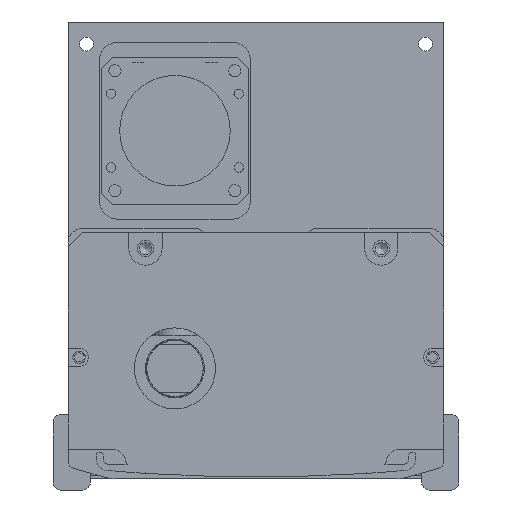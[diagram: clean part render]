
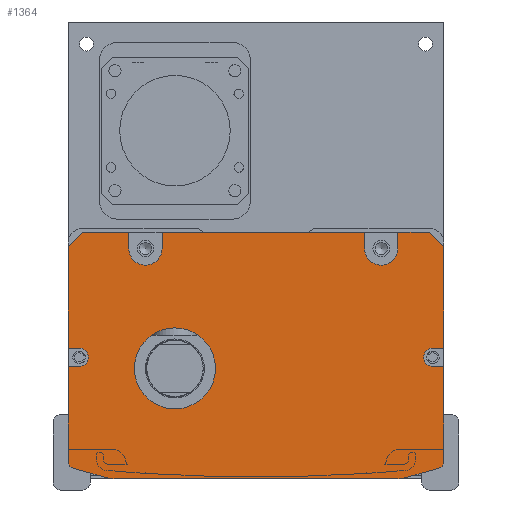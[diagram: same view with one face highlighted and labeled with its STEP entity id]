
A CAD part, front view. The second image highlights one B-rep face of the part: STEP entity #1364.
In plain terms, the highlighted planar face has unit normal (0, -1, 0).
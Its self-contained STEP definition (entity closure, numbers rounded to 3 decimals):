
#1364=ADVANCED_FACE('',(#4036,#4037),#2163,.F.);
#2163=PLANE('',#13208);
#2555=LINE('',#18918,#3317);
#2556=LINE('',#18921,#3318);
#2557=LINE('',#18923,#3319);
#2558=LINE('',#18925,#3320);
#2559=LINE('',#18929,#3321);
#2560=LINE('',#18931,#3322);
#2561=LINE('',#18933,#3323);
#2562=LINE('',#18937,#3324);
#2563=LINE('',#18939,#3325);
#2564=LINE('',#18941,#3326);
#2565=LINE('',#18943,#3327);
#2566=LINE('',#18945,#3328);
#2567=LINE('',#18949,#3329);
#2568=LINE('',#18951,#3330);
#2569=LINE('',#18955,#3331);
#2570=LINE('',#18959,#3332);
#2571=LINE('',#18963,#3333);
#2572=LINE('',#18967,#3334);
#2573=LINE('',#18969,#3335);
#2574=LINE('',#18973,#3336);
#3317=VECTOR('',#14979,1.);
#3318=VECTOR('',#14980,1.);
#3319=VECTOR('',#14981,1.);
#3320=VECTOR('',#14982,1.);
#3321=VECTOR('',#14985,1.);
#3322=VECTOR('',#14986,1.);
#3323=VECTOR('',#14987,1.);
#3324=VECTOR('',#14990,1.);
#3325=VECTOR('',#14991,1.);
#3326=VECTOR('',#14992,1.);
#3327=VECTOR('',#14993,1.);
#3328=VECTOR('',#14994,1.);
#3329=VECTOR('',#14997,1.);
#3330=VECTOR('',#14998,1.);
#3331=VECTOR('',#15001,1.);
#3332=VECTOR('',#15004,1.);
#3333=VECTOR('',#15007,1.);
#3334=VECTOR('',#15010,1.);
#3335=VECTOR('',#15011,1.);
#3336=VECTOR('',#15014,1.);
#4036=FACE_BOUND('',#4736,.T.);
#4037=FACE_BOUND('',#4737,.T.);
#4736=EDGE_LOOP('',(#6051,#6052,#6053,#6054,#6055,#6056,#6057,#6058,#6059,
#6060,#6061,#6062,#6063,#6064,#6065,#6066,#6067,#6068,#6069,#6070,#6071,
#6072,#6073,#6074,#6075,#6076,#6077,#6078));
#4737=EDGE_LOOP('',(#6079));
#6051=ORIENTED_EDGE('',*,*,#10779,.T.);
#6052=ORIENTED_EDGE('',*,*,#10780,.T.);
#6053=ORIENTED_EDGE('',*,*,#10781,.T.);
#6054=ORIENTED_EDGE('',*,*,#10782,.F.);
#6055=ORIENTED_EDGE('',*,*,#10783,.T.);
#6056=ORIENTED_EDGE('',*,*,#10784,.F.);
#6057=ORIENTED_EDGE('',*,*,#10785,.T.);
#6058=ORIENTED_EDGE('',*,*,#10786,.F.);
#6059=ORIENTED_EDGE('',*,*,#10787,.T.);
#6060=ORIENTED_EDGE('',*,*,#10788,.F.);
#6061=ORIENTED_EDGE('',*,*,#10789,.T.);
#6062=ORIENTED_EDGE('',*,*,#10790,.T.);
#6063=ORIENTED_EDGE('',*,*,#10791,.T.);
#6064=ORIENTED_EDGE('',*,*,#10792,.T.);
#6065=ORIENTED_EDGE('',*,*,#10793,.T.);
#6066=ORIENTED_EDGE('',*,*,#10794,.T.);
#6067=ORIENTED_EDGE('',*,*,#10795,.T.);
#6068=ORIENTED_EDGE('',*,*,#10796,.T.);
#6069=ORIENTED_EDGE('',*,*,#10797,.T.);
#6070=ORIENTED_EDGE('',*,*,#10798,.T.);
#6071=ORIENTED_EDGE('',*,*,#10799,.T.);
#6072=ORIENTED_EDGE('',*,*,#10800,.T.);
#6073=ORIENTED_EDGE('',*,*,#10801,.T.);
#6074=ORIENTED_EDGE('',*,*,#10802,.T.);
#6075=ORIENTED_EDGE('',*,*,#10803,.T.);
#6076=ORIENTED_EDGE('',*,*,#10804,.T.);
#6077=ORIENTED_EDGE('',*,*,#10805,.T.);
#6078=ORIENTED_EDGE('',*,*,#10806,.T.);
#6079=ORIENTED_EDGE('',*,*,#10807,.T.);
#9518=VERTEX_POINT('',#18919);
#9519=VERTEX_POINT('',#18920);
#9520=VERTEX_POINT('',#18922);
#9521=VERTEX_POINT('',#18924);
#9522=VERTEX_POINT('',#18926);
#9523=VERTEX_POINT('',#18928);
#9524=VERTEX_POINT('',#18930);
#9525=VERTEX_POINT('',#18932);
#9526=VERTEX_POINT('',#18934);
#9527=VERTEX_POINT('',#18936);
#9528=VERTEX_POINT('',#18938);
#9529=VERTEX_POINT('',#18940);
#9530=VERTEX_POINT('',#18942);
#9531=VERTEX_POINT('',#18944);
#9532=VERTEX_POINT('',#18946);
#9533=VERTEX_POINT('',#18948);
#9534=VERTEX_POINT('',#18950);
#9535=VERTEX_POINT('',#18952);
#9536=VERTEX_POINT('',#18954);
#9537=VERTEX_POINT('',#18956);
#9538=VERTEX_POINT('',#18958);
#9539=VERTEX_POINT('',#18960);
#9540=VERTEX_POINT('',#18962);
#9541=VERTEX_POINT('',#18964);
#9542=VERTEX_POINT('',#18966);
#9543=VERTEX_POINT('',#18968);
#9544=VERTEX_POINT('',#18970);
#9545=VERTEX_POINT('',#18972);
#9546=VERTEX_POINT('',#18975);
#10779=EDGE_CURVE('',#9518,#9519,#2555,.T.);
#10780=EDGE_CURVE('',#9519,#9520,#2556,.T.);
#10781=EDGE_CURVE('',#9520,#9521,#2557,.T.);
#10782=EDGE_CURVE('',#9522,#9521,#2558,.T.);
#10783=EDGE_CURVE('',#9522,#9523,#12418,.T.);
#10784=EDGE_CURVE('',#9524,#9523,#2559,.T.);
#10785=EDGE_CURVE('',#9524,#9525,#2560,.T.);
#10786=EDGE_CURVE('',#9526,#9525,#2561,.T.);
#10787=EDGE_CURVE('',#9526,#9527,#12419,.T.);
#10788=EDGE_CURVE('',#9528,#9527,#2562,.T.);
#10789=EDGE_CURVE('',#9528,#9529,#2563,.T.);
#10790=EDGE_CURVE('',#9529,#9530,#2564,.T.);
#10791=EDGE_CURVE('',#9530,#9531,#2565,.T.);
#10792=EDGE_CURVE('',#9531,#9532,#2566,.T.);
#10793=EDGE_CURVE('',#9532,#9533,#12420,.T.);
#10794=EDGE_CURVE('',#9533,#9534,#2567,.T.);
#10795=EDGE_CURVE('',#9534,#9535,#2568,.T.);
#10796=EDGE_CURVE('',#9535,#9536,#12421,.T.);
#10797=EDGE_CURVE('',#9536,#9537,#2569,.T.);
#10798=EDGE_CURVE('',#9537,#9538,#12422,.T.);
#10799=EDGE_CURVE('',#9538,#9539,#2570,.T.);
#10800=EDGE_CURVE('',#9539,#9540,#12423,.T.);
#10801=EDGE_CURVE('',#9540,#9541,#2571,.T.);
#10802=EDGE_CURVE('',#9541,#9542,#12424,.T.);
#10803=EDGE_CURVE('',#9542,#9543,#2572,.T.);
#10804=EDGE_CURVE('',#9543,#9544,#2573,.T.);
#10805=EDGE_CURVE('',#9544,#9545,#12425,.T.);
#10806=EDGE_CURVE('',#9545,#9518,#2574,.T.);
#10807=EDGE_CURVE('',#9546,#9546,#12426,.T.);
#12418=CIRCLE('',#13199,4.5);
#12419=CIRCLE('',#13200,4.5);
#12420=CIRCLE('',#13201,2.5);
#12421=CIRCLE('',#13202,2.);
#12422=CIRCLE('',#13203,10.);
#12423=CIRCLE('',#13204,10.);
#12424=CIRCLE('',#13205,2.);
#12425=CIRCLE('',#13206,2.5);
#12426=CIRCLE('',#13207,11.);
#13199=AXIS2_PLACEMENT_3D('',#18927,#14983,#14984);
#13200=AXIS2_PLACEMENT_3D('',#18935,#14988,#14989);
#13201=AXIS2_PLACEMENT_3D('',#18947,#14995,#14996);
#13202=AXIS2_PLACEMENT_3D('',#18953,#14999,#15000);
#13203=AXIS2_PLACEMENT_3D('',#18957,#15002,#15003);
#13204=AXIS2_PLACEMENT_3D('',#18961,#15005,#15006);
#13205=AXIS2_PLACEMENT_3D('',#18965,#15008,#15009);
#13206=AXIS2_PLACEMENT_3D('',#18971,#15012,#15013);
#13207=AXIS2_PLACEMENT_3D('',#18974,#15015,#15016);
#13208=AXIS2_PLACEMENT_3D('',#18976,#15017,#15018);
#14979=DIRECTION('',(0.,0.,1.));
#14980=DIRECTION('',(-0.707,0.,0.707));
#14981=DIRECTION('',(-1.,0.,0.));
#14982=DIRECTION('',(0.,0.,1.));
#14983=DIRECTION('',(0.,1.,0.));
#14984=DIRECTION('',(0.,0.,1.));
#14985=DIRECTION('',(0.,0.,-1.));
#14986=DIRECTION('',(-1.,0.,0.));
#14987=DIRECTION('',(0.,0.,1.));
#14988=DIRECTION('',(0.,1.,0.));
#14989=DIRECTION('',(0.,0.,1.));
#14990=DIRECTION('',(0.,0.,-1.));
#14991=DIRECTION('',(-1.,0.,0.));
#14992=DIRECTION('',(-0.707,0.,-0.707));
#14993=DIRECTION('',(0.,0.,-1.));
#14994=DIRECTION('',(1.,0.,0.));
#14995=DIRECTION('',(0.,1.,0.));
#14996=DIRECTION('',(0.,0.,1.));
#14997=DIRECTION('',(-1.,0.,0.));
#14998=DIRECTION('',(0.,0.,-1.));
#14999=DIRECTION('',(0.,-1.,0.));
#15000=DIRECTION('',(0.,0.,1.));
#15001=DIRECTION('',(0.963,0.,-0.269));
#15002=DIRECTION('',(0.,-1.,0.));
#15003=DIRECTION('',(0.,0.,1.));
#15004=DIRECTION('',(1.,0.,0.));
#15005=DIRECTION('',(0.,-1.,0.));
#15006=DIRECTION('',(0.,0.,-1.));
#15007=DIRECTION('',(0.963,0.,0.269));
#15008=DIRECTION('',(0.,-1.,0.));
#15009=DIRECTION('',(0.,0.,-1.));
#15010=DIRECTION('',(0.,0.,1.));
#15011=DIRECTION('',(-1.,0.,0.));
#15012=DIRECTION('',(0.,1.,0.));
#15013=DIRECTION('',(0.,0.,1.));
#15014=DIRECTION('',(1.,0.,0.));
#15015=DIRECTION('',(0.,1.,0.));
#15016=DIRECTION('',(0.,0.,1.));
#15017=DIRECTION('',(0.,1.,0.));
#15018=DIRECTION('',(-1.,0.,0.));
#18918=CARTESIAN_POINT('',(47.808,-567.5,-1.));
#18919=CARTESIAN_POINT('',(47.808,-567.5,-32.5));
#18920=CARTESIAN_POINT('',(47.808,-567.5,-5.));
#18921=CARTESIAN_POINT('',(43.808,-567.5,-1.));
#18922=CARTESIAN_POINT('',(43.808,-567.5,-1.));
#18923=CARTESIAN_POINT('',(-3.192,-567.5,-1.));
#18924=CARTESIAN_POINT('',(35.308,-567.5,-1.));
#18925=CARTESIAN_POINT('',(35.308,-567.5,-1.));
#18926=CARTESIAN_POINT('',(35.308,-567.5,-5.5));
#18927=CARTESIAN_POINT('',(30.808,-567.5,-5.5));
#18928=CARTESIAN_POINT('',(26.308,-567.5,-5.5));
#18929=CARTESIAN_POINT('',(26.308,-567.5,-1.));
#18930=CARTESIAN_POINT('',(26.308,-567.5,-1.));
#18931=CARTESIAN_POINT('',(-54.192,-567.5,-1.));
#18932=CARTESIAN_POINT('',(-28.692,-567.5,-1.));
#18933=CARTESIAN_POINT('',(-28.692,-567.5,-3.5));
#18934=CARTESIAN_POINT('',(-28.692,-567.5,-5.5));
#18935=CARTESIAN_POINT('',(-33.192,-567.5,-5.5));
#18936=CARTESIAN_POINT('',(-37.692,-567.5,-5.5));
#18937=CARTESIAN_POINT('',(-37.692,-567.5,-1.));
#18938=CARTESIAN_POINT('',(-37.692,-567.5,-1.));
#18939=CARTESIAN_POINT('',(-54.192,-567.5,-1.));
#18940=CARTESIAN_POINT('',(-50.192,-567.5,-1.));
#18941=CARTESIAN_POINT('',(-54.192,-567.5,-5.));
#18942=CARTESIAN_POINT('',(-54.192,-567.5,-5.));
#18943=CARTESIAN_POINT('',(-54.192,-567.5,-62.));
#18944=CARTESIAN_POINT('',(-54.192,-567.5,-32.5));
#18945=CARTESIAN_POINT('',(-3.192,-567.5,-32.5));
#18946=CARTESIAN_POINT('',(-51.192,-567.5,-32.5));
#18947=CARTESIAN_POINT('',(-51.192,-567.5,-35.));
#18948=CARTESIAN_POINT('',(-51.192,-567.5,-37.5));
#18949=CARTESIAN_POINT('',(-3.192,-567.5,-37.5));
#18950=CARTESIAN_POINT('',(-54.192,-567.5,-37.5));
#18951=CARTESIAN_POINT('',(-54.192,-567.5,-62.));
#18952=CARTESIAN_POINT('',(-54.192,-567.5,-63.212));
#18953=CARTESIAN_POINT('',(-52.192,-567.5,-63.212));
#18954=CARTESIAN_POINT('',(-52.731,-567.5,-65.138));
#18955=CARTESIAN_POINT('',(-55.807,-567.5,-64.279));
#18956=CARTESIAN_POINT('',(-43.809,-567.5,-67.631));
#18957=CARTESIAN_POINT('',(-41.118,-567.5,-58.));
#18958=CARTESIAN_POINT('',(-41.118,-567.5,-68.));
#18959=CARTESIAN_POINT('',(-54.692,-567.5,-68.));
#18960=CARTESIAN_POINT('',(34.733,-567.5,-68.));
#18961=CARTESIAN_POINT('',(34.733,-567.5,-58.));
#18962=CARTESIAN_POINT('',(37.424,-567.5,-67.631));
#18963=CARTESIAN_POINT('',(49.422,-567.5,-64.279));
#18964=CARTESIAN_POINT('',(46.346,-567.5,-65.138));
#18965=CARTESIAN_POINT('',(45.808,-567.5,-63.212));
#18966=CARTESIAN_POINT('',(47.808,-567.5,-63.212));
#18967=CARTESIAN_POINT('',(47.808,-567.5,-1.));
#18968=CARTESIAN_POINT('',(47.808,-567.5,-37.5));
#18969=CARTESIAN_POINT('',(-3.192,-567.5,-37.5));
#18970=CARTESIAN_POINT('',(44.808,-567.5,-37.5));
#18971=CARTESIAN_POINT('',(44.808,-567.5,-35.));
#18972=CARTESIAN_POINT('',(44.808,-567.5,-32.5));
#18973=CARTESIAN_POINT('',(-3.192,-567.5,-32.5));
#18974=CARTESIAN_POINT('',(-25.192,-567.5,-38.));
#18975=CARTESIAN_POINT('',(-25.192,-567.5,-27.));
#18976=CARTESIAN_POINT('',(-3.192,-567.5,-1.));
